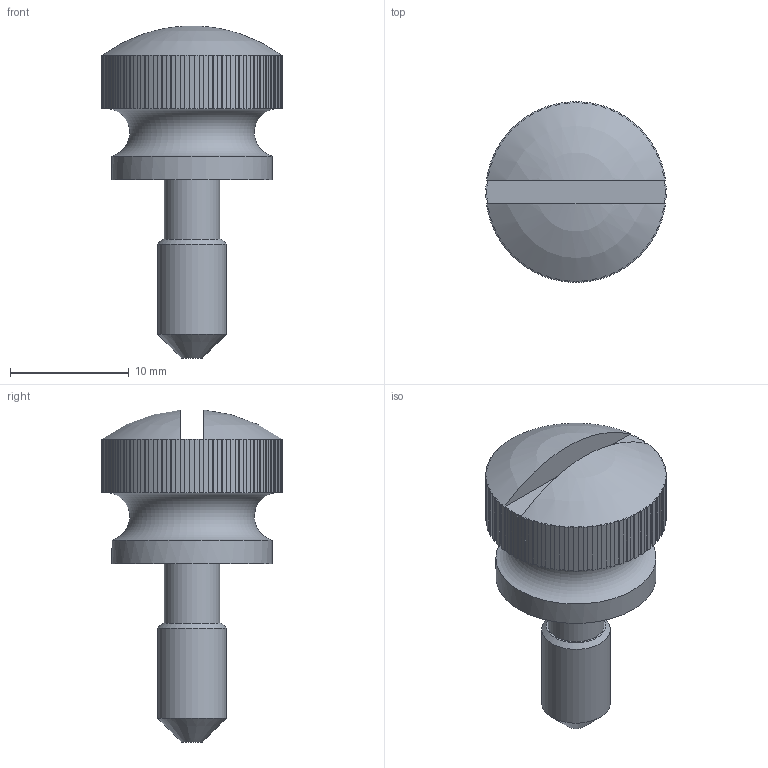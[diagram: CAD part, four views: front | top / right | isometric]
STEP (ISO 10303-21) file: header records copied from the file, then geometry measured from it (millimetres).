
FILE_DESCRIPTION(/* description */ (''),/* implementation_level */ '2;1');
FILE_NAME(/* name */ '\\SYNOLOGYNAS\web\db2\K-HSH15-M5_M\도면\M6\K-HSH15-M6-15.stp',/* time_stamp */ '2024-10-14T14:12:01+09:00',/* author */ ('user'),/* organization */ (''),/* preprocessor_version */ 'ST-DEVELOPER v15.6',/* originating_system */ 'Autodesk Inventor 2015',/* authorisation */ '');
FILE_SCHEMA (('AUTOMOTIVE_DESIGN { 1 0 10303 214 3 1 1 }'));
Length unit declared in the file: millimetre
Products named in the file (1): K-HSH15-M6-15
Bounding box: 15.19 x 15.2 x 27.96 mm (x, y, z)
Volume: 2001.5 mm3; surface area: 1219.2 mm2
Topology: 1 solids, 1 shells, 308 faces, 798 edges, 494 vertices
Faces by surface type: plane 240, cylinder 63, cone 2, sphere 2, torus 1
Full cylindrical faces by diameter (mm): 4.7 x1, 5.8 x1, 13.5 x1
Entity records: 9514 total; most frequent: CARTESIAN_POINT 2251, ORIENTED_EDGE 1580, DIRECTION 1416, EDGE_CURVE 790, AXIS2_PLACEMENT_3D 497, VERTEX_POINT 492, LINE 422, VECTOR 422
